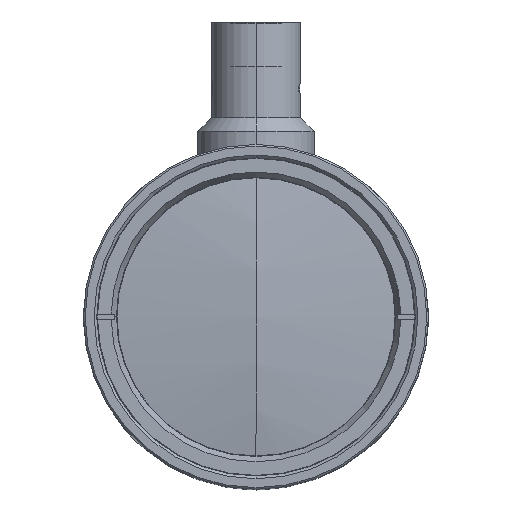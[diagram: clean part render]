
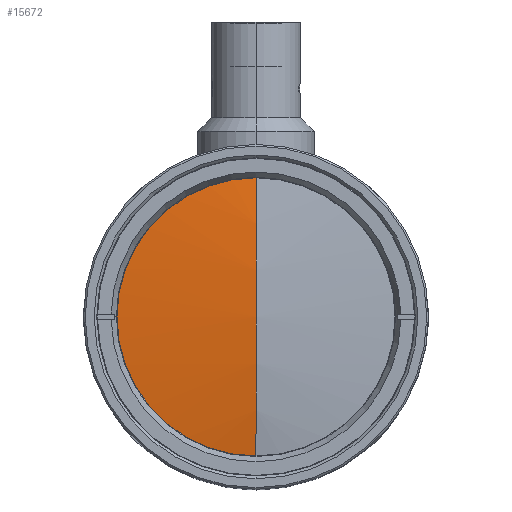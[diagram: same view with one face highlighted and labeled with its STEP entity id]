
A CAD part, top view. The second image highlights one B-rep face of the part: STEP entity #15672.
In plain terms, the highlighted spherical face has radius 143.3 mm.
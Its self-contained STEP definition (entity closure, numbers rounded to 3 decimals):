
#566 = DIRECTION ( 'NONE',  ( -1., 0., 0. ) ) ;
#1052 = AXIS2_PLACEMENT_3D ( 'NONE', #6649, #15510, #19221 ) ;
#3357 = ORIENTED_EDGE ( 'NONE', *, *, #37018, .T. ) ;
#4591 = EDGE_LOOP ( 'NONE', ( #38749, #38240, #3357, #22887 ) ) ;
#6030 = AXIS2_PLACEMENT_3D ( 'NONE', #38086, #28799, #566 ) ;
#6531 = AXIS2_PLACEMENT_3D ( 'NONE', #29148, #7298, #38235 ) ;
#6649 = CARTESIAN_POINT ( 'NONE',  ( 0., 0., 155.683 ) ) ;
#7298 = DIRECTION ( 'NONE',  ( 1., 0., 0. ) ) ;
#7565 = VERTEX_POINT ( 'NONE', #33493 ) ;
#7811 = CARTESIAN_POINT ( 'NONE',  ( 0., 0., 296.768 ) ) ;
#9723 = DIRECTION ( 'NONE',  ( 0., 0., 1. ) ) ;
#11964 = CARTESIAN_POINT ( 'NONE',  ( 0., 25.097, 296.768 ) ) ;
#12895 = DIRECTION ( 'NONE',  ( -1., 0., 0. ) ) ;
#13795 = VERTEX_POINT ( 'NONE', #27936 ) ;
#14481 = EDGE_CURVE ( 'NONE', #13795, #35766, #36973, .T. ) ;
#15510 = DIRECTION ( 'NONE',  ( -1., 0., 0. ) ) ;
#15672 = ADVANCED_FACE ( 'NONE', ( #37473 ), #28581, .T. ) ;
#18886 = DIRECTION ( 'NONE',  ( 0., 1., 0. ) ) ;
#19221 = DIRECTION ( 'NONE',  ( 0., -1., 0. ) ) ;
#20370 = DIRECTION ( 'NONE',  ( -1., 0., 0. ) ) ;
#21429 = CIRCLE ( 'NONE', #1052, 143.3 ) ;
#21638 = EDGE_CURVE ( 'NONE', #32457, #7565, #24286, .T. ) ;
#22887 = ORIENTED_EDGE ( 'NONE', *, *, #21638, .F. ) ;
#24286 = CIRCLE ( 'NONE', #6531, 143.3 ) ;
#25142 = CARTESIAN_POINT ( 'NONE',  ( 0., -25.097, 296.768 ) ) ;
#27936 = CARTESIAN_POINT ( 'NONE',  ( -25.097, 0., 296.768 ) ) ;
#27981 = CARTESIAN_POINT ( 'NONE',  ( 0., 0., 155.683 ) ) ;
#28581 = SPHERICAL_SURFACE ( 'NONE', #38338, 143.3 ) ;
#28799 = DIRECTION ( 'NONE',  ( 0., 0., 1. ) ) ;
#29148 = CARTESIAN_POINT ( 'NONE',  ( 0., 0., 155.683 ) ) ;
#30241 = EDGE_CURVE ( 'NONE', #32457, #13795, #37319, .T. ) ;
#32457 = VERTEX_POINT ( 'NONE', #11964 ) ;
#33493 = CARTESIAN_POINT ( 'NONE',  ( 0., 0., 298.983 ) ) ;
#35326 = AXIS2_PLACEMENT_3D ( 'NONE', #7811, #9723, #20370 ) ;
#35766 = VERTEX_POINT ( 'NONE', #25142 ) ;
#36973 = CIRCLE ( 'NONE', #6030, 25.097 ) ;
#37018 = EDGE_CURVE ( 'NONE', #35766, #7565, #21429, .T. ) ;
#37319 = CIRCLE ( 'NONE', #35326, 25.097 ) ;
#37473 = FACE_OUTER_BOUND ( 'NONE', #4591, .T. ) ;
#38086 = CARTESIAN_POINT ( 'NONE',  ( 0., 0., 296.768 ) ) ;
#38235 = DIRECTION ( 'NONE',  ( 0., 0., -1. ) ) ;
#38240 = ORIENTED_EDGE ( 'NONE', *, *, #14481, .T. ) ;
#38338 = AXIS2_PLACEMENT_3D ( 'NONE', #27981, #12895, #18886 ) ;
#38749 = ORIENTED_EDGE ( 'NONE', *, *, #30241, .T. ) ;
